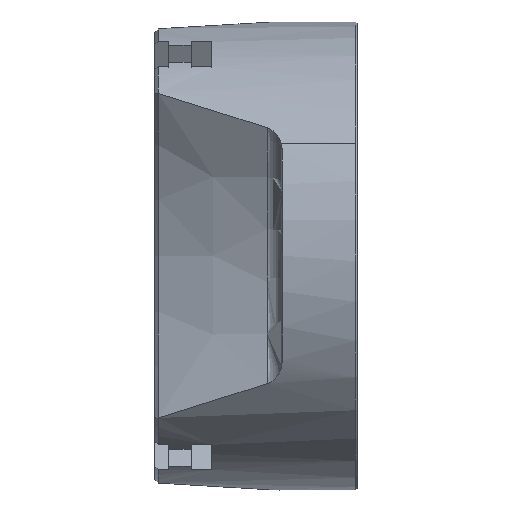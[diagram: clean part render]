
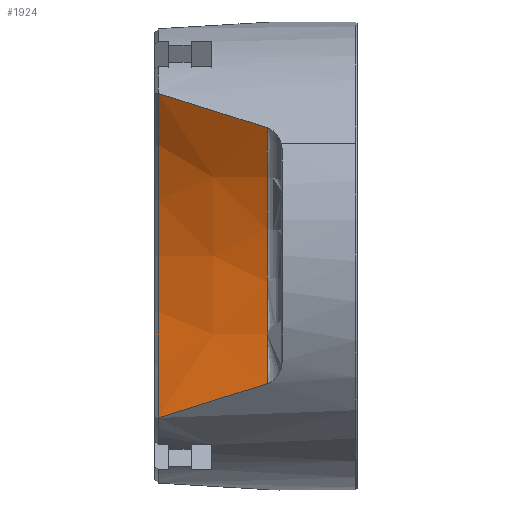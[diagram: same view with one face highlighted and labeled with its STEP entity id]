
A CAD part, top view. The second image highlights one B-rep face of the part: STEP entity #1924.
In plain terms, the highlighted conical face has half-angle 20 degrees and reference radius 153.806 mm.
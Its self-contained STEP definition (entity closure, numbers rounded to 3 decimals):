
#1772=CARTESIAN_POINT('Vertex',(39.58,56.341,-86.225)) ;
#1775=CARTESIAN_POINT('Axis2P3D Location',(39.58,0.,-209.806)) ;
#1779=CARTESIAN_POINT('Vertex',(39.58,-56.341,-86.225)) ;
#1890=CARTESIAN_POINT('Axis2P3D Location',(89.,0.,-209.806)) ;
#1895=CARTESIAN_POINT('Axis2P3D Location',(87.428,0.,-209.806)) ;
#1899=CARTESIAN_POINT('Vertex',(87.428,71.409,-74.228)) ;
#1901=CARTESIAN_POINT('Vertex',(87.428,-71.409,-74.228)) ;
#1905=CARTESIAN_POINT('Control Point',(39.58,-56.341,-86.225)) ;
#1906=CARTESIAN_POINT('Control Point',(51.401,-60.604,-83.439)) ;
#1907=CARTESIAN_POINT('Control Point',(63.355,-64.483,-80.505)) ;
#1908=CARTESIAN_POINT('Control Point',(75.372,-68.077,-77.433)) ;
#1909=CARTESIAN_POINT('Control Point',(87.428,-71.409,-74.228)) ;
#1912=CARTESIAN_POINT('Control Point',(39.58,56.341,-86.225)) ;
#1913=CARTESIAN_POINT('Control Point',(51.401,60.604,-83.439)) ;
#1914=CARTESIAN_POINT('Control Point',(63.355,64.483,-80.505)) ;
#1915=CARTESIAN_POINT('Control Point',(75.372,68.077,-77.433)) ;
#1916=CARTESIAN_POINT('Control Point',(87.428,71.409,-74.228)) ;
#1776=DIRECTION('Axis2P3D Direction',(1.,0.,0.)) ;
#1891=DIRECTION('Axis2P3D Direction',(1.,0.,0.)) ;
#1892=DIRECTION('Axis2P3D XDirection',(0.,-0.002,-1.)) ;
#1896=DIRECTION('Axis2P3D Direction',(1.,0.,0.)) ;
#1777=AXIS2_PLACEMENT_3D('Circle Axis2P3D',#1775,#1776,$) ;
#1893=AXIS2_PLACEMENT_3D('Cone Axis2P3D',#1890,#1891,#1892) ;
#1897=AXIS2_PLACEMENT_3D('Circle Axis2P3D',#1895,#1896,$) ;
#1919=ORIENTED_EDGE('',*,*,#1903,.T.) ;
#1920=ORIENTED_EDGE('',*,*,#1910,.F.) ;
#1921=ORIENTED_EDGE('',*,*,#1781,.T.) ;
#1922=ORIENTED_EDGE('',*,*,#1917,.T.) ;
#1924=ADVANCED_FACE('',(#1923),#1894,.F.) ;
#1904=B_SPLINE_CURVE_WITH_KNOTS('',4,(#1905,#1906,#1907,#1908,#1909),.UNSPECIFIED.,.F.,.U.,(5,5),(0.,73.042),.UNSPECIFIED.) ;
#1911=B_SPLINE_CURVE_WITH_KNOTS('',4,(#1912,#1913,#1914,#1915,#1916),.UNSPECIFIED.,.F.,.U.,(5,5),(0.,73.042),.UNSPECIFIED.) ;
#1778=CIRCLE('generated circle',#1777,135.819) ;
#1898=CIRCLE('generated circle',#1897,153.234) ;
#1894=CONICAL_SURFACE('Cone',#1893,153.806,0.349) ;
#1781=EDGE_CURVE('',#1780,#1773,#1778,.F.) ;
#1903=EDGE_CURVE('',#1900,#1902,#1898,.T.) ;
#1910=EDGE_CURVE('',#1780,#1902,#1904,.T.) ;
#1917=EDGE_CURVE('',#1773,#1900,#1911,.T.) ;
#1918=EDGE_LOOP('',(#1919,#1920,#1921,#1922)) ;
#1923=FACE_OUTER_BOUND('',#1918,.T.) ;
#1773=VERTEX_POINT('',#1772) ;
#1780=VERTEX_POINT('',#1779) ;
#1900=VERTEX_POINT('',#1899) ;
#1902=VERTEX_POINT('',#1901) ;
